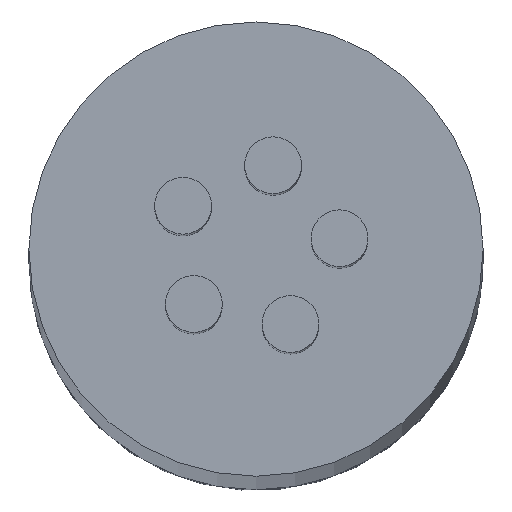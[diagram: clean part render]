
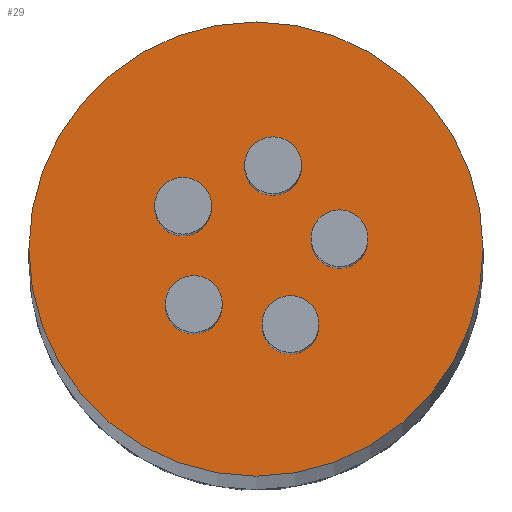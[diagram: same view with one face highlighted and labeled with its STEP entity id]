
A CAD part, top view. The second image highlights one B-rep face of the part: STEP entity #29.
In plain terms, the highlighted planar face has unit normal (0, 0, 1).
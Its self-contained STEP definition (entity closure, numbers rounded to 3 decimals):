
#7 = CARTESIAN_POINT ( 'NONE',  ( -2.392, -1.493, 200. ) ) ;
#18 = FACE_BOUND ( 'NONE', #891, .T. ) ;
#19 = CARTESIAN_POINT ( 'NONE',  ( 0.451, 2.173, 200. ) ) ;
#22 = DIRECTION ( 'NONE',  ( 0., 0., 1. ) ) ;
#23 = DIRECTION ( 'NONE',  ( 1., 0., 0. ) ) ;
#26 = AXIS2_PLACEMENT_3D ( 'NONE', #512, #829, #754 ) ;
#27 = CARTESIAN_POINT ( 'NONE',  ( 1.663, -2.023, 200. ) ) ;
#29 = ADVANCED_FACE ( 'NONE', ( #760, #713, #18, #516, #288, #707 ), #352, .T. ) ;
#37 = VERTEX_POINT ( 'NONE', #218 ) ;
#38 = EDGE_LOOP ( 'NONE', ( #278, #966 ) ) ;
#41 = AXIS2_PLACEMENT_3D ( 'NONE', #484, #558, #120 ) ;
#52 = CARTESIAN_POINT ( 'NONE',  ( 0.451, 2.173, 200. ) ) ;
#60 = EDGE_CURVE ( 'NONE', #258, #435, #665, .T. ) ;
#70 = CIRCLE ( 'NONE', #276, 0.75 ) ;
#77 = ORIENTED_EDGE ( 'NONE', *, *, #838, .F. ) ;
#80 = CARTESIAN_POINT ( 'NONE',  ( 2.206, 0.243, 200. ) ) ;
#90 = CARTESIAN_POINT ( 'NONE',  ( -1.642, -1.493, 200. ) ) ;
#92 = CIRCLE ( 'NONE', #743, 0.75 ) ;
#97 = DIRECTION ( 'NONE',  ( 1., 0., 0. ) ) ;
#101 = CARTESIAN_POINT ( 'NONE',  ( 0., 0., 200. ) ) ;
#120 = DIRECTION ( 'NONE',  ( 1., 0., 0. ) ) ;
#124 = DIRECTION ( 'NONE',  ( 0., 0., 1. ) ) ;
#135 = DIRECTION ( 'NONE',  ( 1., 0., 0. ) ) ;
#155 = DIRECTION ( 'NONE',  ( 0., 0., 1. ) ) ;
#179 = CARTESIAN_POINT ( 'NONE',  ( -6., 0., 200. ) ) ;
#193 = AXIS2_PLACEMENT_3D ( 'NONE', #973, #232, #747 ) ;
#194 = DIRECTION ( 'NONE',  ( 1., 0., 0. ) ) ;
#199 = CARTESIAN_POINT ( 'NONE',  ( 2.956, 0.243, 200. ) ) ;
#203 = EDGE_CURVE ( 'NONE', #249, #299, #588, .T. ) ;
#218 = CARTESIAN_POINT ( 'NONE',  ( -0.299, 2.173, 200. ) ) ;
#221 = CIRCLE ( 'NONE', #595, 6. ) ;
#225 = CARTESIAN_POINT ( 'NONE',  ( -1.177, 1.1, 200. ) ) ;
#232 = DIRECTION ( 'NONE',  ( 0., 0., 1. ) ) ;
#233 = EDGE_LOOP ( 'NONE', ( #739, #820 ) ) ;
#249 = VERTEX_POINT ( 'NONE', #528 ) ;
#252 = DIRECTION ( 'NONE',  ( 0., 0., 1. ) ) ;
#258 = VERTEX_POINT ( 'NONE', #445 ) ;
#276 = AXIS2_PLACEMENT_3D ( 'NONE', #842, #252, #23 ) ;
#278 = ORIENTED_EDGE ( 'NONE', *, *, #386, .F. ) ;
#280 = AXIS2_PLACEMENT_3D ( 'NONE', #345, #124, #135 ) ;
#288 = FACE_BOUND ( 'NONE', #629, .T. ) ;
#299 = VERTEX_POINT ( 'NONE', #225 ) ;
#302 = AXIS2_PLACEMENT_3D ( 'NONE', #52, #942, #194 ) ;
#316 = CARTESIAN_POINT ( 'NONE',  ( 1.456, 0.243, 200. ) ) ;
#321 = DIRECTION ( 'NONE',  ( 0., 0., 1. ) ) ;
#332 = ORIENTED_EDGE ( 'NONE', *, *, #350, .F. ) ;
#345 = CARTESIAN_POINT ( 'NONE',  ( 2.206, 0.243, 200. ) ) ;
#349 = EDGE_CURVE ( 'NONE', #434, #383, #221, .T. ) ;
#350 = EDGE_CURVE ( 'NONE', #37, #391, #92, .T. ) ;
#352 = PLANE ( 'NONE',  #637 ) ;
#360 = ORIENTED_EDGE ( 'NONE', *, *, #873, .F. ) ;
#372 = CARTESIAN_POINT ( 'NONE',  ( 6., 0., 200. ) ) ;
#381 = ORIENTED_EDGE ( 'NONE', *, *, #490, .F. ) ;
#383 = VERTEX_POINT ( 'NONE', #179 ) ;
#386 = EDGE_CURVE ( 'NONE', #773, #628, #70, .T. ) ;
#391 = VERTEX_POINT ( 'NONE', #400 ) ;
#395 = DIRECTION ( 'NONE',  ( 0., 0., 1. ) ) ;
#400 = CARTESIAN_POINT ( 'NONE',  ( 1.201, 2.173, 200. ) ) ;
#410 = AXIS2_PLACEMENT_3D ( 'NONE', #80, #155, #903 ) ;
#430 = AXIS2_PLACEMENT_3D ( 'NONE', #101, #22, #926 ) ;
#434 = VERTEX_POINT ( 'NONE', #372 ) ;
#435 = VERTEX_POINT ( 'NONE', #7 ) ;
#445 = CARTESIAN_POINT ( 'NONE',  ( -0.892, -1.493, 200. ) ) ;
#452 = CIRCLE ( 'NONE', #193, 0.75 ) ;
#462 = ORIENTED_EDGE ( 'NONE', *, *, #735, .F. ) ;
#467 = ORIENTED_EDGE ( 'NONE', *, *, #639, .T. ) ;
#484 = CARTESIAN_POINT ( 'NONE',  ( -1.642, -1.493, 200. ) ) ;
#490 = EDGE_CURVE ( 'NONE', #435, #258, #695, .T. ) ;
#512 = CARTESIAN_POINT ( 'NONE',  ( -1.927, 1.1, 200. ) ) ;
#516 = FACE_BOUND ( 'NONE', #233, .T. ) ;
#517 = CIRCLE ( 'NONE', #430, 6. ) ;
#528 = CARTESIAN_POINT ( 'NONE',  ( -2.677, 1.1, 200. ) ) ;
#555 = AXIS2_PLACEMENT_3D ( 'NONE', #722, #866, #936 ) ;
#558 = DIRECTION ( 'NONE',  ( 0., 0., 1. ) ) ;
#588 = CIRCLE ( 'NONE', #26, 0.75 ) ;
#590 = CIRCLE ( 'NONE', #302, 0.75 ) ;
#595 = AXIS2_PLACEMENT_3D ( 'NONE', #618, #321, #761 ) ;
#614 = CIRCLE ( 'NONE', #555, 0.75 ) ;
#615 = VERTEX_POINT ( 'NONE', #316 ) ;
#618 = CARTESIAN_POINT ( 'NONE',  ( 0., 0., 200. ) ) ;
#628 = VERTEX_POINT ( 'NONE', #27 ) ;
#629 = EDGE_LOOP ( 'NONE', ( #381, #939 ) ) ;
#637 = AXIS2_PLACEMENT_3D ( 'NONE', #654, #659, #953 ) ;
#639 = EDGE_CURVE ( 'NONE', #383, #434, #517, .T. ) ;
#654 = CARTESIAN_POINT ( 'NONE',  ( 0., 0., 200. ) ) ;
#659 = DIRECTION ( 'NONE',  ( 0., 0., 1. ) ) ;
#665 = CIRCLE ( 'NONE', #41, 0.75 ) ;
#691 = DIRECTION ( 'NONE',  ( 1., 0., 0. ) ) ;
#695 = CIRCLE ( 'NONE', #756, 0.75 ) ;
#707 = FACE_OUTER_BOUND ( 'NONE', #779, .T. ) ;
#713 = FACE_BOUND ( 'NONE', #852, .T. ) ;
#718 = CARTESIAN_POINT ( 'NONE',  ( 0.163, -2.023, 200. ) ) ;
#722 = CARTESIAN_POINT ( 'NONE',  ( 0.913, -2.023, 200. ) ) ;
#735 = EDGE_CURVE ( 'NONE', #801, #615, #835, .T. ) ;
#739 = ORIENTED_EDGE ( 'NONE', *, *, #203, .F. ) ;
#743 = AXIS2_PLACEMENT_3D ( 'NONE', #19, #395, #691 ) ;
#747 = DIRECTION ( 'NONE',  ( 1., 0., 0. ) ) ;
#750 = EDGE_CURVE ( 'NONE', #628, #773, #614, .T. ) ;
#754 = DIRECTION ( 'NONE',  ( 1., 0., 0. ) ) ;
#756 = AXIS2_PLACEMENT_3D ( 'NONE', #90, #845, #97 ) ;
#760 = FACE_BOUND ( 'NONE', #38, .T. ) ;
#761 = DIRECTION ( 'NONE',  ( 1., 0., 0. ) ) ;
#773 = VERTEX_POINT ( 'NONE', #718 ) ;
#779 = EDGE_LOOP ( 'NONE', ( #467, #879 ) ) ;
#784 = CIRCLE ( 'NONE', #410, 0.75 ) ;
#801 = VERTEX_POINT ( 'NONE', #199 ) ;
#817 = EDGE_CURVE ( 'NONE', #299, #249, #452, .T. ) ;
#820 = ORIENTED_EDGE ( 'NONE', *, *, #817, .F. ) ;
#829 = DIRECTION ( 'NONE',  ( 0., 0., 1. ) ) ;
#835 = CIRCLE ( 'NONE', #280, 0.75 ) ;
#838 = EDGE_CURVE ( 'NONE', #615, #801, #784, .T. ) ;
#842 = CARTESIAN_POINT ( 'NONE',  ( 0.913, -2.023, 200. ) ) ;
#845 = DIRECTION ( 'NONE',  ( 0., 0., 1. ) ) ;
#852 = EDGE_LOOP ( 'NONE', ( #77, #462 ) ) ;
#866 = DIRECTION ( 'NONE',  ( 0., 0., 1. ) ) ;
#873 = EDGE_CURVE ( 'NONE', #391, #37, #590, .T. ) ;
#879 = ORIENTED_EDGE ( 'NONE', *, *, #349, .T. ) ;
#891 = EDGE_LOOP ( 'NONE', ( #332, #360 ) ) ;
#903 = DIRECTION ( 'NONE',  ( 1., 0., 0. ) ) ;
#926 = DIRECTION ( 'NONE',  ( 1., 0., 0. ) ) ;
#936 = DIRECTION ( 'NONE',  ( 1., 0., 0. ) ) ;
#939 = ORIENTED_EDGE ( 'NONE', *, *, #60, .F. ) ;
#942 = DIRECTION ( 'NONE',  ( 0., 0., 1. ) ) ;
#953 = DIRECTION ( 'NONE',  ( 1., 0., 0. ) ) ;
#966 = ORIENTED_EDGE ( 'NONE', *, *, #750, .F. ) ;
#973 = CARTESIAN_POINT ( 'NONE',  ( -1.927, 1.1, 200. ) ) ;
